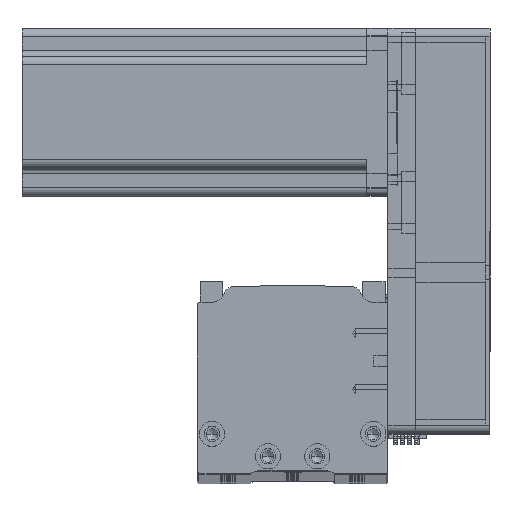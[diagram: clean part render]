
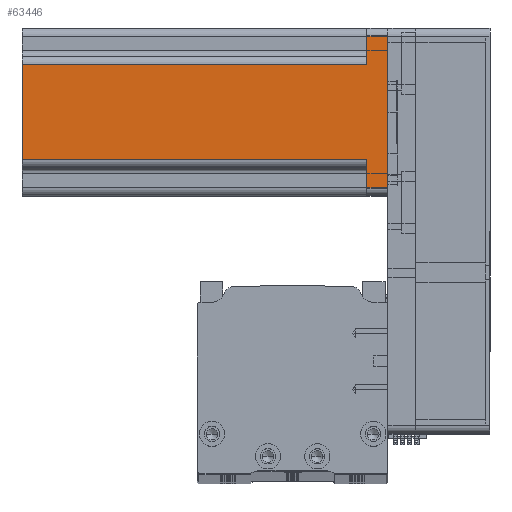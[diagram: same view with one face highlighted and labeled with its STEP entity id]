
A CAD part, top view. The second image highlights one B-rep face of the part: STEP entity #63446.
In plain terms, the highlighted planar face has unit normal (0, 0, 1) as drawn and (0, -1, 0) by its records, which use the part's own axes.
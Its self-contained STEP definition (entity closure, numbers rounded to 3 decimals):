
#683 = CARTESIAN_POINT ( 'NONE',  ( -27., -30., 0. ) ) ;
#888 = LINE ( 'NONE', #55548, #39072 ) ;
#1571 = EDGE_CURVE ( 'NONE', #64849, #8897, #65846, .T. ) ;
#2105 = EDGE_CURVE ( 'NONE', #13960, #11800, #59191, .T. ) ;
#3832 = ORIENTED_EDGE ( 'NONE', *, *, #2105, .F. ) ;
#5150 = DIRECTION ( 'NONE',  ( 0., 1., 0. ) ) ;
#5313 = EDGE_CURVE ( 'NONE', #13960, #60317, #9038, .T. ) ;
#5321 = VECTOR ( 'NONE', #24432, 1000. ) ;
#8160 = CARTESIAN_POINT ( 'NONE',  ( -20., -30., 7.5 ) ) ;
#8605 = DIRECTION ( 'NONE',  ( 0., 0., 1. ) ) ;
#8804 = ORIENTED_EDGE ( 'NONE', *, *, #5313, .T. ) ;
#8897 = VERTEX_POINT ( 'NONE', #47599 ) ;
#9038 = LINE ( 'NONE', #24137, #34980 ) ;
#9410 = EDGE_CURVE ( 'NONE', #30724, #11800, #10112, .T. ) ;
#10112 = LINE ( 'NONE', #52101, #22297 ) ;
#10272 = CARTESIAN_POINT ( 'NONE',  ( 27., -30., 7.5 ) ) ;
#11800 = VERTEX_POINT ( 'NONE', #15613 ) ;
#13960 = VERTEX_POINT ( 'NONE', #27034 ) ;
#14608 = ORIENTED_EDGE ( 'NONE', *, *, #65188, .T. ) ;
#15613 = CARTESIAN_POINT ( 'NONE',  ( -17., -30., 7.5 ) ) ;
#16237 = VECTOR ( 'NONE', #55306, 1000. ) ;
#16349 = FACE_OUTER_BOUND ( 'NONE', #63039, .T. ) ;
#17044 = CARTESIAN_POINT ( 'NONE',  ( 27., -30., 0. ) ) ;
#18010 = LINE ( 'NONE', #34431, #43816 ) ;
#19370 = DIRECTION ( 'NONE',  ( 1., 0., 0. ) ) ;
#22297 = VECTOR ( 'NONE', #46858, 1000. ) ;
#23572 = VERTEX_POINT ( 'NONE', #17044 ) ;
#24137 = CARTESIAN_POINT ( 'NONE',  ( -27., -30., 130.7 ) ) ;
#24432 = DIRECTION ( 'NONE',  ( 1., 0., 0. ) ) ;
#24611 = ORIENTED_EDGE ( 'NONE', *, *, #54074, .T. ) ;
#24870 = CARTESIAN_POINT ( 'NONE',  ( 17., -30., 130.7 ) ) ;
#25620 = PLANE ( 'NONE',  #47032 ) ;
#27034 = CARTESIAN_POINT ( 'NONE',  ( -27., -30., 7.5 ) ) ;
#29323 = DIRECTION ( 'NONE',  ( 0., 0., -1. ) ) ;
#30724 = VERTEX_POINT ( 'NONE', #54703 ) ;
#32913 = LINE ( 'NONE', #60685, #5321 ) ;
#34431 = CARTESIAN_POINT ( 'NONE',  ( 17., -30., 130.7 ) ) ;
#34980 = VECTOR ( 'NONE', #29323, 1000. ) ;
#35539 = VECTOR ( 'NONE', #40838, 1000. ) ;
#36178 = CARTESIAN_POINT ( 'NONE',  ( 30., -30., 130.7 ) ) ;
#39072 = VECTOR ( 'NONE', #19370, 1000. ) ;
#40838 = DIRECTION ( 'NONE',  ( 0., 0., 1. ) ) ;
#41393 = DIRECTION ( 'NONE',  ( -1., 0., 0. ) ) ;
#43816 = VECTOR ( 'NONE', #8605, 1000. ) ;
#44400 = EDGE_CURVE ( 'NONE', #30724, #54143, #888, .T. ) ;
#46858 = DIRECTION ( 'NONE',  ( 0., 0., -1. ) ) ;
#47032 = AXIS2_PLACEMENT_3D ( 'NONE', #36178, #5150, #41393 ) ;
#47599 = CARTESIAN_POINT ( 'NONE',  ( 17., -30., 7.5 ) ) ;
#48502 = ORIENTED_EDGE ( 'NONE', *, *, #9410, .T. ) ;
#50989 = LINE ( 'NONE', #51092, #35539 ) ;
#51092 = CARTESIAN_POINT ( 'NONE',  ( 27., -30., 130.7 ) ) ;
#52030 = VECTOR ( 'NONE', #64210, 1000. ) ;
#52101 = CARTESIAN_POINT ( 'NONE',  ( -17., -30., 130.7 ) ) ;
#54074 = EDGE_CURVE ( 'NONE', #60317, #23572, #32913, .T. ) ;
#54143 = VERTEX_POINT ( 'NONE', #24870 ) ;
#54703 = CARTESIAN_POINT ( 'NONE',  ( -17., -30., 130.7 ) ) ;
#55306 = DIRECTION ( 'NONE',  ( 1., 0., 0. ) ) ;
#55548 = CARTESIAN_POINT ( 'NONE',  ( 30., -30., 130.7 ) ) ;
#55933 = ORIENTED_EDGE ( 'NONE', *, *, #66308, .T. ) ;
#58989 = CARTESIAN_POINT ( 'NONE',  ( 20., -30., 7.5 ) ) ;
#58994 = ORIENTED_EDGE ( 'NONE', *, *, #44400, .F. ) ;
#59191 = LINE ( 'NONE', #8160, #16237 ) ;
#60317 = VERTEX_POINT ( 'NONE', #683 ) ;
#60685 = CARTESIAN_POINT ( 'NONE',  ( 30., -30., 0. ) ) ;
#62949 = ORIENTED_EDGE ( 'NONE', *, *, #1571, .T. ) ;
#63039 = EDGE_LOOP ( 'NONE', ( #58994, #48502, #3832, #8804, #24611, #55933, #62949, #14608 ) ) ;
#63446 = ADVANCED_FACE ( 'NONE', ( #16349 ), #25620, .F. ) ;
#64210 = DIRECTION ( 'NONE',  ( -1., 0., 0. ) ) ;
#64849 = VERTEX_POINT ( 'NONE', #10272 ) ;
#65188 = EDGE_CURVE ( 'NONE', #8897, #54143, #18010, .T. ) ;
#65846 = LINE ( 'NONE', #58989, #52030 ) ;
#66308 = EDGE_CURVE ( 'NONE', #23572, #64849, #50989, .T. ) ;
